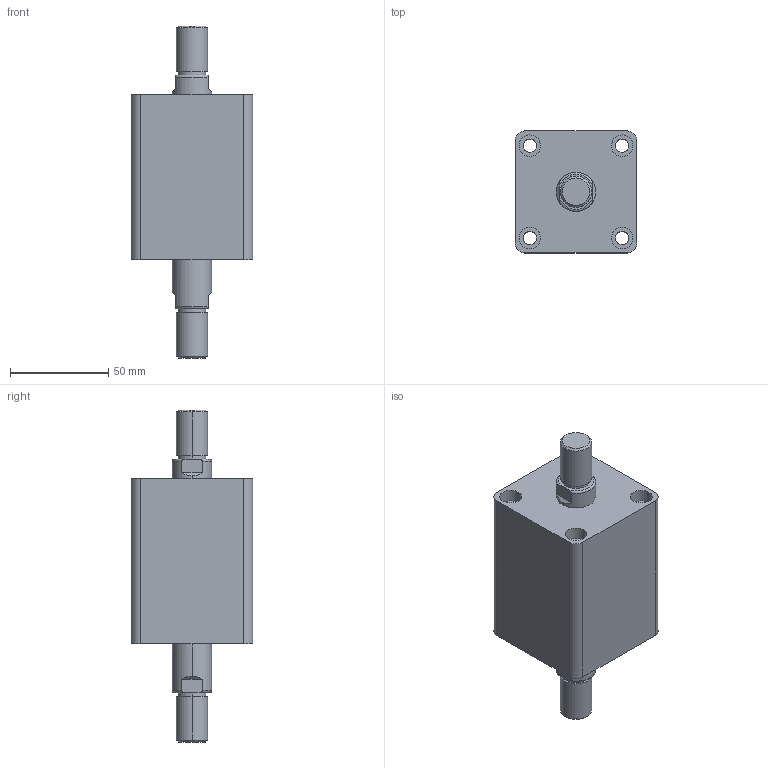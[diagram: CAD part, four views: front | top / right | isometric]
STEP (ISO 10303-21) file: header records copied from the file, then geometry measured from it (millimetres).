
FILE_DESCRIPTION (( 'STEP AP203' ), '1' );
FILE_NAME ('HTB-SW32-15W.STEP', '2019-10-07T08:50:48', ( '微软用户' ), ( '微软中国' ), 'SwSTEP 2.0', 'SolidWorks 2012', '' );
FILE_SCHEMA (( 'CONFIG_CONTROL_DESIGN' ));
Length unit declared in the file: millimetre
Products named in the file (3): HTB-SW32-15W; HTB-SW32-15W活塞杆; HTB-SW32-15掛极
Assembly tree (2 placements, depth 2):
  HTB-SW32-15W
    HTB-SW32-15掛极
    HTB-SW32-15W活塞杆
Bounding box: 62 x 62 x 169 mm (x, y, z)
Volume: 316754.1 mm3; surface area: 55150.4 mm2
Topology: 2 solids, 2 shells, 108 faces, 240 edges, 156 vertices
Faces by surface type: cylinder 52, plane 36, torus 12, cone 8
Entity records: 3449 total; most frequent: CARTESIAN_POINT 629, DIRECTION 586, ORIENTED_EDGE 480, AXIS2_PLACEMENT_3D 249, EDGE_CURVE 240, VERTEX_POINT 156, EDGE_LOOP 138, CIRCLE 136
